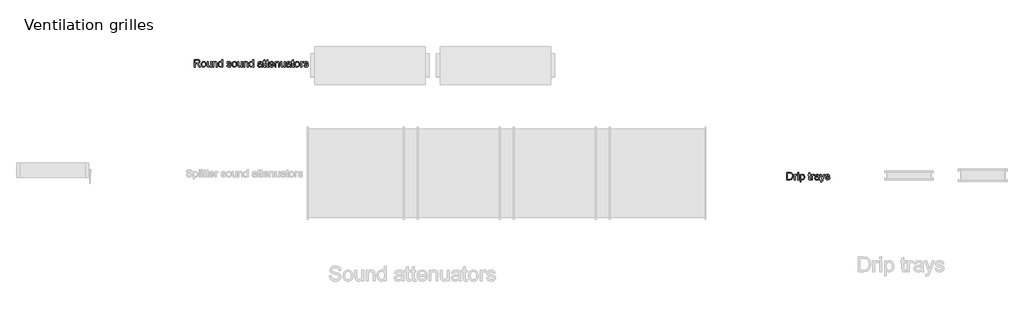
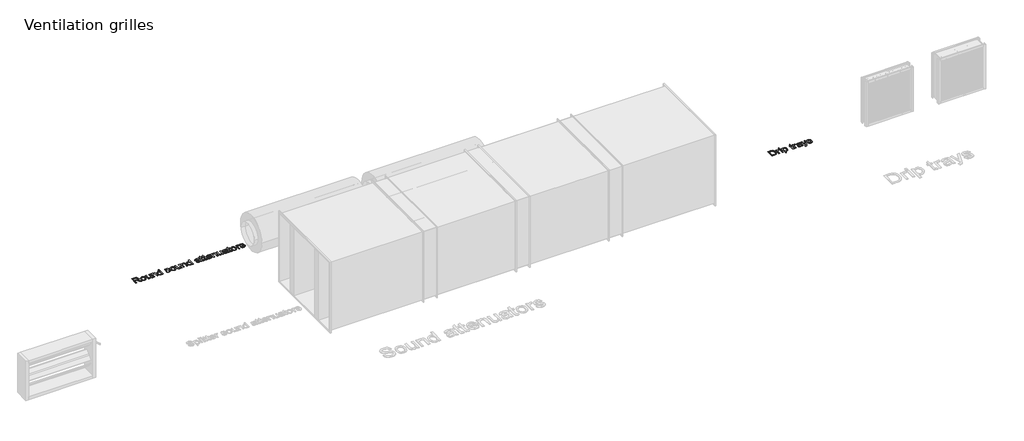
# One storey, part 10 of 10: 2 proxies.
"""IFC4 building model written with IfcOpenShell, lengths in millimetres."""

import ifcopenshell
import ifcopenshell.guid

model = None  # the IFC model being written
_history = None  # IfcOwnerHistory: only IFC2X3 demands one
_inside = {}  # id of a spatial element -> (the spatial element, [elements in it])
_under = {}  # id of a project, library or spatial element -> (it, [spatial elements below it])
_declared = {}  # id of a project -> (the project, [libraries it declares])
_typed = {}  # id of a type object -> (the type object, [elements of that type])
_made_of = {}  # id of a material, layer set ... -> (it, [elements and type objects made of it])


def new_model(schema):
    """Start an empty IFC model of exactly this schema.

    Asked for "IFC4X3", IfcOpenShell would pick the latest addendum, in which some entities
    have other attributes; the version numbers below select the first issue.
    IFC2X3 requires an IfcOwnerHistory on every rooted entity: one is made here for all.
    """
    global model, _history
    if schema == "IFC4X3":
        model = ifcopenshell.file(schema_version=(4, 3, 0, 0))
    else:
        model = ifcopenshell.file(schema=schema)
    _inside.clear()
    _under.clear()
    _declared.clear()
    _typed.clear()
    _made_of.clear()
    _history = None
    if model.schema == "IFC2X3":
        org = make("IfcOrganization", Name="unknown")
        user = make(
            "IfcPersonAndOrganization",
            ThePerson=make("IfcPerson", FamilyName="unknown"),
            TheOrganization=org,
        )
        app = make(
            "IfcApplication",
            ApplicationDeveloper=org,
            Version="unknown",
            ApplicationFullName="unknown",
            ApplicationIdentifier="unknown",
        )
        _history = make(
            "IfcOwnerHistory",
            OwningUser=user,
            OwningApplication=app,
            ChangeAction="ADDED",
            CreationDate=0,
        )
    return model


def make(cls, **values):
    """One entity of the class cls with the attributes given. An attribute that is None is left unset."""
    return model.create_entity(
        cls, **{name: value for name, value in values.items() if value is not None}
    )


def rooted(cls, **values):
    """An entity with a GlobalId (a new one), such as an element, a storey or a relation."""
    return make(cls, GlobalId=ifcopenshell.guid.new(), OwnerHistory=_history, **values)


def si_unit(unit_type, name, prefix=None):
    """IfcSIUnit, for example si_unit("LENGTHUNIT", "METRE", prefix="MILLI")."""
    return make("IfcSIUnit", UnitType=unit_type, Prefix=prefix, Name=name)


def assignment(units):
    """IfcUnitAssignment: the units of a project."""
    return None if units is None else make("IfcUnitAssignment", Units=units)


def point(xyz):
    """IfcCartesianPoint."""
    return None if xyz is None else make("IfcCartesianPoint", Coordinates=xyz)


def direction(xyz):
    """IfcDirection."""
    return None if xyz is None else make("IfcDirection", DirectionRatios=xyz)


def frame(location, z_axis=None, x_axis=None):
    """IfcAxis2Placement3D, a coordinate frame: its origin and axes. An axis left out is left unset."""
    return make(
        "IfcAxis2Placement3D",
        Location=point(location),
        Axis=direction(z_axis),
        RefDirection=direction(x_axis),
    )


def origin():
    """The frame at (0, 0, 0) with its axes left unset."""
    return frame((0.0, 0.0, 0.0))


def origin_with_axes():
    """The frame at (0, 0, 0) with the z axis (0, 0, 1) and the x axis (1, 0, 0) written out."""
    return frame((0.0, 0.0, 0.0), z_axis=(0.0, 0.0, 1.0), x_axis=(1.0, 0.0, 0.0))


def place(relative_to, where):
    """IfcLocalPlacement: puts the frame where relative to a parent placement (None: the world)."""
    return make(
        "IfcLocalPlacement", PlacementRelTo=relative_to, RelativePlacement=where
    )


def context(
    kind, dimensions, precision=None, world=None, true_north=None, identifier=None
):
    """IfcGeometricRepresentationContext, for example the 3D "Model" context."""
    return make(
        "IfcGeometricRepresentationContext",
        ContextIdentifier=identifier,
        ContextType=kind,
        CoordinateSpaceDimension=dimensions,
        Precision=precision,
        WorldCoordinateSystem=world,
        TrueNorth=true_north,
    )


def project(units=None, contexts=None):
    """IfcProject with its units and contexts."""
    return rooted(
        "IfcProject",
        Name="project",
        RepresentationContexts=contexts,
        UnitsInContext=assignment(units),
    )


def spatial(cls, under=None, at=None, **own):
    """A site, building, storey or space (cls), placed at a placement, below another one or the project."""
    s = rooted(cls, ObjectPlacement=at, **own)
    if under is not None:
        _under.setdefault(under.id(), (under, []))[1].append(s)
    return s


def polyline(points):
    """IfcPolyline through the points."""
    return make("IfcPolyline", Points=[point(p) for p in points])


def outline(outer, holes=None, kind="AREA"):
    """IfcArbitraryClosedProfileDef: a profile drawn as a closed curve; with holes, ...WithVoids."""
    if holes is None:
        return make("IfcArbitraryClosedProfileDef", ProfileType=kind, OuterCurve=outer)
    return make(
        "IfcArbitraryProfileDefWithVoids",
        ProfileType=kind,
        OuterCurve=outer,
        InnerCurves=holes,
    )


def extrude(swept, where, along, depth):
    """IfcExtrudedAreaSolid: the profile swept, set in the frame where, extruded along a direction by depth."""
    return make(
        "IfcExtrudedAreaSolid",
        SweptArea=swept,
        Position=where,
        ExtrudedDirection=direction(along),
        Depth=depth,
    )


def shape(context_of_items, identifier, shape_type, items):
    """IfcShapeRepresentation: the items that make up one representation, for example the "Body"."""
    return make(
        "IfcShapeRepresentation",
        ContextOfItems=context_of_items,
        RepresentationIdentifier=identifier,
        RepresentationType=shape_type,
        Items=items,
    )


def made_of(thing, what):
    """Note that an element or type object is made of a material, layer set ...; save() writes the relation."""
    if what is not None:
        _made_of.setdefault(what.id(), (what, []))[1].append(thing)
    return thing


def element(
    cls,
    number,
    at=None,
    inside=None,
    cuts=None,
    type_object=None,
    material=None,
    context=None,
    identifier="Body",
    shape_type=None,
    held_by="IfcProductDefinitionShape",
    body=None,
    shapes=None,
    **own,
):
    """One element of the class cls, such as IfcWall. Its Tag is "e" and its number.

    at: its placement. inside: the storey or other place that contains it. cuts: it is an
    opening in that element (IfcRelVoidsElement). A single representation is given by context,
    identifier, shape_type and body (its items); several are given by shapes. held_by: the class
    of the entity that holds the representations. save() writes the other relations.
    """
    e = rooted(cls, Tag="e%d" % number, ObjectPlacement=at, **own)
    if body is not None:
        shapes = [shape(context, identifier, shape_type, body)]
    if shapes is not None:
        e.Representation = make(held_by, Representations=shapes)
    if inside is not None:
        _inside.setdefault(inside.id(), (inside, []))[1].append(e)
    if cuts is not None:
        rooted(
            "IfcRelVoidsElement", RelatingBuildingElement=cuts, RelatedOpeningElement=e
        )
    if type_object is not None:
        _typed.setdefault(type_object.id(), (type_object, []))[1].append(e)
    return made_of(e, material)


def aggregate(whole, parts):
    """IfcRelAggregates: a whole, such as a stair, and the parts it consists of."""
    return rooted("IfcRelAggregates", RelatingObject=whole, RelatedObjects=parts)


def save(model, path):
    """Write the relations noted so far, then the file.

    IfcRelAggregates (storeys below a building ...), IfcRelContainedInSpatialStructure (elements
    in a storey), IfcRelDefinesByType, IfcRelAssociatesMaterial and IfcRelDeclares: one each for
    every whole, place, type object, material and project.
    """
    for whole, parts in _under.values():
        aggregate(whole, parts)
    for where, things in _inside.values():
        rooted(
            "IfcRelContainedInSpatialStructure",
            RelatedElements=things,
            RelatingStructure=where,
        )
    for kind, things in _typed.values():
        rooted("IfcRelDefinesByType", RelatedObjects=things, RelatingType=kind)
    for what, things in _made_of.values():
        rooted("IfcRelAssociatesMaterial", RelatedObjects=things, RelatingMaterial=what)
    for by, libraries in _declared.values():
        rooted("IfcRelDeclares", RelatingContext=by, RelatedDefinitions=libraries)
    model.write(path)


model = new_model("IFC4")

# Units and contexts
model_context = context("Model", 3, world=origin())
ifc_project = project(units=[si_unit("LENGTHUNIT", "METRE", prefix="MILLI")], contexts=[model_context])

# Site, building, storey
site = spatial("IfcSite", under=ifc_project)
building = spatial("IfcBuilding", under=site)
storey = spatial("IfcBuildingStorey", under=building, Name="Ventilation grilles", Elevation=0.0)

# Proxies
placement = place(None, origin())
element("IfcBuildingElementProxy", 1, Name="100mm", ObjectType="100mm", at=placement, inside=storey, context=model_context, shape_type="SweptSolid", body=[
    extrude(outline(polyline([(17028.791729, -13631.5210593), (17028.791729, -13531.0647491), (17072.0791771, -13531.0647491), (17092.1777968, -13533.7748132), (17103.1652057, -13543.3642705), (17107.2732214, -13558.5577969), (17105.5717671, -13568.4538226), (17100.4674044, -13576.6575911), (17091.8068491, -13582.6724617), (17079.436817, -13586.0017937), (17086.5737278, -13591.3728709), (17096.7517963, -13604.2977916), (17113.5026898, -13631.5210593), (17098.9100373, -13631.5210593), (17085.8379638, -13610.6989384), (17076.3956592, -13596.9156263), (17069.7615206, -13590.4041149), (17063.7895695, -13588.012882), (17056.505506, -13587.5714236), (17041.3487678, -13587.5714236), (17041.3487678, -13631.5210593), (17028.791729, -13631.5210593)]), holes=[polyline([(17041.3487678, -13575.0143848), (17069.4549522, -13575.0143848), (17083.7900873, -13573.2362885), (17091.9325422, -13567.5463803), (17094.7161826, -13559.0237808), (17089.4064191, -13547.9627954), (17072.6187374, -13543.6217879), (17041.3487678, -13543.6217879), (17041.3487678, -13575.0143848)])]), origin_with_axes(), (0.0, 0.0, 1.0), 2.0),
    extrude(outline(polyline([(17124.5391497, -13594.6347579), (17127.2553451, -13576.8476634), (17135.4039312, -13564.345807), (17145.4716352, -13558.2205717), (17157.5259019, -13556.1788267), (17170.7175371, -13558.6650958), (17181.2542906, -13566.1239033), (17188.161275, -13577.9666378), (17190.4636032, -13593.6046883), (17186.3923758, -13615.9473881), (17174.5343128, -13628.590266), (17157.5259019, -13633.0906891), (17144.1748511, -13630.613617), (17133.6503604, -13623.1824007), (17126.8169523, -13611.0913458), (17124.5391497, -13594.6347579)]), holes=[polyline([(17137.0961884, -13594.6102324), (17138.5493223, -13605.9747204), (17142.9087239, -13614.07119), (17149.4692862, -13618.9180353), (17157.5259019, -13620.5336504), (17165.5457294, -13618.9088382), (17172.0940289, -13614.0344018), (17176.4534305, -13605.8306333), (17177.9065644, -13594.217825), (17176.4442335, -13583.1844308), (17172.0572407, -13575.1983258), (17165.4997441, -13570.3514805), (17157.5259019, -13568.7358654), (17149.4692862, -13570.3453492), (17142.9087239, -13575.1738003), (17138.5493223, -13583.2518758), (17137.0961884, -13594.6102324)])]), origin_with_axes(), (0.0, 0.0, 1.0), 2.0),
    extrude(outline(polyline([(17251.6791672, -13631.5210593), (17251.6791672, -13618.8413932), (17241.8444552, -13629.5283651), (17229.0176363, -13633.0906891), (17217.2086242, -13630.5890916), (17209.0661694, -13624.3105722), (17205.3260358, -13615.0644714), (17204.5902718, -13603.3903494), (17204.5902718, -13557.7484565), (17217.1473106, -13557.7484565), (17217.1473106, -13597.479712), (17217.9076, -13610.2820054), (17222.874007, -13617.7990609), (17232.2304724, -13620.5336504), (17242.7151092, -13617.7377472), (17249.6435535, -13610.1225899), (17251.6791672, -13596.1308113), (17251.6791672, -13557.7484565), (17264.236206, -13557.7484565), (17264.236206, -13631.5210593), (17251.6791672, -13631.5210593)])), origin_with_axes(), (0.0, 0.0, 1.0), 2.0),
    extrude(outline(polyline([(17281.5021343, -13631.5210593), (17281.5021343, -13557.7484565), (17294.059173, -13557.7484565), (17294.059173, -13568.0491524), (17303.6608931, -13559.1464081), (17316.7697549, -13556.1788267), (17328.6278178, -13558.5700596), (17336.7212217, -13564.848579), (17340.4858808, -13574.0824171), (17341.1480684, -13586.2225229), (17341.1480684, -13631.5210593), (17328.5910296, -13631.5210593), (17328.5910296, -13587.9147801), (17327.1440271, -13576.8047439), (17322.0304674, -13570.9308947), (17313.409766, -13568.7358654), (17299.7858694, -13573.6654842), (17295.4908471, -13580.8085262), (17294.059173, -13592.378415), (17294.059173, -13631.5210593), (17281.5021343, -13631.5210593)])), origin_with_axes(), (0.0, 0.0, 1.0), 2.0),
    extrude(outline(polyline([(17403.9332623, -13631.5210593), (17403.9332623, -13619.675259), (17395.6252605, -13629.7368316), (17384.1412109, -13633.0906891), (17368.5920653, -13628.2346468), (17357.6046563, -13614.6843266), (17353.7051072, -13594.7083343), (17357.298088, -13574.7200792), (17368.0647677, -13560.9612926), (17384.09216, -13556.1788267), (17395.6681801, -13559.6001292), (17403.9332623, -13568.4906108), (17403.9332623, -13531.0647491), (17416.490301, -13531.0647491), (17416.490301, -13631.5210593), (17403.9332623, -13631.5210593)]), holes=[polyline([(17366.262146, -13594.6592834), (17367.6784916, -13606.01764), (17371.9275287, -13614.0957154), (17378.1018148, -13618.9241666), (17385.2939078, -13620.5336504), (17392.4829352, -13618.997743), (17398.5008715, -13614.390021), (17402.5751646, -13606.6246453), (17403.9332623, -13595.6157765), (17402.5506391, -13583.5799039), (17398.4027696, -13575.235114), (17392.2315491, -13570.3606776), (17384.778873, -13568.7358654), (17377.5132036, -13570.2962982), (17371.5596467, -13574.9775966), (17367.5865211, -13583.0188839), (17366.262146, -13594.6592834)])]), origin_with_axes(), (0.0, 0.0, 1.0), 2.0),
    extrude(outline(polyline([(17469.8577158, -13609.5462414), (17482.4147546, -13607.9766116), (17488.2272901, -13617.2962888), (17501.5446183, -13620.5336504), (17514.3469117, -13617.5660689), (17518.516241, -13610.6008365), (17514.3223863, -13604.9599792), (17501.3974655, -13601.3792611), (17482.488331, -13595.2356318), (17474.2355115, -13588.0619329), (17471.4273456, -13577.9329153), (17473.6836885, -13568.5764499), (17479.8395806, -13561.4272765), (17487.8226199, -13557.7116683), (17498.6260878, -13556.1788267), (17513.9054534, -13558.643636), (17523.617538, -13565.3145629), (17527.9340201, -13576.5840147), (17515.3769813, -13578.1536445), (17510.6558291, -13571.2252003), (17499.6071065, -13568.7358654), (17487.589628, -13571.1148357), (17483.9843844, -13576.6575911), (17485.4804379, -13580.3118855), (17490.1648019, -13583.0832632), (17500.9805326, -13585.7565391), (17519.4114205, -13591.6671765), (17527.9708083, -13598.3626288), (17531.0732798, -13609.2764613), (17527.431248, -13621.2939398), (17516.9220857, -13630.0127431), (17501.37294, -13633.0906891), (17488.711668, -13631.6068984), (17479.4716986, -13627.1555263), (17473.3035438, -13619.7856236), (17469.8577158, -13609.5462414)])), origin_with_axes(), (0.0, 0.0, 1.0), 2.0),
    extrude(outline(polyline([(17542.0606887, -13594.6347579), (17544.7768841, -13576.8476634), (17552.9254703, -13564.345807), (17562.9931742, -13558.2205717), (17575.047441, -13556.1788267), (17588.2390762, -13558.6650958), (17598.7758296, -13566.1239033), (17605.6828141, -13577.9666378), (17607.9851423, -13593.6046883), (17603.9139148, -13615.9473881), (17592.0558519, -13628.590266), (17575.047441, -13633.0906891), (17561.6963902, -13630.613617), (17551.1718995, -13623.1824007), (17544.3384914, -13611.0913458), (17542.0606887, -13594.6347579)]), holes=[polyline([(17554.6177275, -13594.6102324), (17556.0708614, -13605.9747204), (17560.430263, -13614.07119), (17566.9908253, -13618.9180353), (17575.047441, -13620.5336504), (17583.0672684, -13618.9088382), (17589.615568, -13614.0344018), (17593.9749696, -13605.8306333), (17595.4281035, -13594.217825), (17593.9657726, -13583.1844308), (17589.5787798, -13575.1983258), (17583.0212832, -13570.3514805), (17575.047441, -13568.7358654), (17566.9908253, -13570.3453492), (17560.430263, -13575.1738003), (17556.0708614, -13583.2518758), (17554.6177275, -13594.6102324)])]), origin_with_axes(), (0.0, 0.0, 1.0), 2.0),
    extrude(outline(polyline([(17669.2007062, -13631.5210593), (17669.2007062, -13618.8413932), (17659.3659942, -13629.5283651), (17646.5391753, -13633.0906891), (17634.7301633, -13630.5890916), (17626.5877085, -13624.3105722), (17622.8475749, -13615.0644714), (17622.1118109, -13603.3903494), (17622.1118109, -13557.7484565), (17634.6688496, -13557.7484565), (17634.6688496, -13597.479712), (17635.4291391, -13610.2820054), (17640.395546, -13617.7990609), (17649.7520114, -13620.5336504), (17660.2366483, -13617.7377472), (17667.1650925, -13610.1225899), (17669.2007062, -13596.1308113), (17669.2007062, -13557.7484565), (17681.757745, -13557.7484565), (17681.757745, -13631.5210593), (17669.2007062, -13631.5210593)])), origin_with_axes(), (0.0, 0.0, 1.0), 2.0),
    extrude(outline(polyline([(17699.0236733, -13631.5210593), (17699.0236733, -13557.7484565), (17711.5807121, -13557.7484565), (17711.5807121, -13568.0491524), (17721.1824322, -13559.1464081), (17734.2912939, -13556.1788267), (17746.1493569, -13558.5700596), (17754.2427608, -13564.848579), (17758.0074199, -13574.0824171), (17758.6696075, -13586.2225229), (17758.6696075, -13631.5210593), (17746.1125687, -13631.5210593), (17746.1125687, -13587.9147801), (17744.6655662, -13576.8047439), (17739.5520065, -13570.9308947), (17730.931305, -13568.7358654), (17717.3074085, -13573.6654842), (17713.0123862, -13580.8085262), (17711.5807121, -13592.378415), (17711.5807121, -13631.5210593), (17699.0236733, -13631.5210593)])), origin_with_axes(), (0.0, 0.0, 1.0), 2.0),
    extrude(outline(polyline([(17821.4548013, -13631.5210593), (17821.4548013, -13619.675259), (17813.1467996, -13629.7368316), (17801.66275, -13633.0906891), (17786.1136043, -13628.2346468), (17775.1261954, -13614.6843266), (17771.2266462, -13594.7083343), (17774.8196271, -13574.7200792), (17785.5863068, -13560.9612926), (17801.613699, -13556.1788267), (17813.1897192, -13559.6001292), (17821.4548013, -13568.4906108), (17821.4548013, -13531.0647491), (17834.0118401, -13531.0647491), (17834.0118401, -13631.5210593), (17821.4548013, -13631.5210593)]), holes=[polyline([(17783.783685, -13594.6592834), (17785.2000307, -13606.01764), (17789.4490677, -13614.0957154), (17795.6233539, -13618.9241666), (17802.8154469, -13620.5336504), (17810.0044742, -13618.997743), (17816.0224105, -13614.390021), (17820.0967036, -13606.6246453), (17821.4548013, -13595.6157765), (17820.0721782, -13583.5799039), (17815.9243087, -13575.235114), (17809.7530882, -13570.3606776), (17802.3004121, -13568.7358654), (17795.0347427, -13570.2962982), (17789.0811857, -13574.9775966), (17785.1080602, -13583.0188839), (17783.783685, -13594.6592834)])]), origin_with_axes(), (0.0, 0.0, 1.0), 2.0),
    extrude(outline(polyline([(17939.1770398, -13622.1032802), (17927.0001457, -13630.613617), (17913.5479274, -13633.0906891), (17903.0540935, -13631.600767), (17895.3132432, -13627.1310008), (17890.5399743, -13620.343578), (17888.9488847, -13611.9006862), (17891.3523804, -13601.9678723), (17897.667688, -13594.7573852), (17906.4600677, -13590.6371069), (17917.3248493, -13588.748646), (17939.1034634, -13584.4321639), (17939.1770398, -13581.6362607), (17935.718949, -13572.3656345), (17921.8375351, -13568.7358654), (17909.1333435, -13571.1516239), (17903.0755533, -13579.7232744), (17890.5185145, -13578.1536445), (17895.9509053, -13565.8909113), (17906.8892633, -13558.7049497), (17923.4562158, -13556.1788267), (17938.6742677, -13558.4106441), (17947.2704437, -13564.0147132), (17951.1209419, -13572.5373127), (17951.7340785, -13583.5247216), (17951.7340785, -13599.1474437), (17952.3717407, -13620.962846), (17954.8733382, -13631.5210593), (17942.3162995, -13631.5210593), (17939.1770398, -13622.1032802)]), holes=[polyline([(17939.1770398, -13596.9892027), (17918.9190046, -13600.8397009), (17908.1155367, -13602.8753146), (17903.2227061, -13606.1862525), (17901.5059235, -13611.0177694), (17905.2460571, -13617.8113236), (17916.2212033, -13620.5336504), (17928.9253948, -13617.5292807), (17937.1169006, -13610.25748), (17939.1034634, -13600.5453953), (17939.1770398, -13596.9892027)])]), origin_with_axes(), (0.0, 0.0, 1.0), 2.0),
    extrude(outline(polyline([(17995.6837142, -13621.0486851), (17997.2533441, -13631.8889413), (17987.8600905, -13633.0906891), (17977.3386654, -13631.0060245), (17972.0902156, -13625.5368455), (17970.5696367, -13611.2875495), (17970.5696367, -13570.3054953), (17961.1518576, -13570.3054953), (17961.1518576, -13557.7484565), (17970.5696367, -13557.7484565), (17970.5696367, -13539.8203406), (17983.1266755, -13532.4381752), (17983.1266755, -13557.7484565), (17995.6837142, -13557.7484565), (17995.6837142, -13570.3054953), (17983.1266755, -13570.3054953), (17983.1266755, -13610.9196675), (17983.7888631, -13617.3943907), (17985.9348414, -13619.6875218), (17990.2145352, -13620.5336504), (17995.6837142, -13621.0486851)])), origin_with_axes(), (0.0, 0.0, 1.0), 2.0),
    extrude(outline(polyline([(18034.9244604, -13621.0486851), (18036.4940902, -13631.8889413), (18027.1008366, -13633.0906891), (18016.5794116, -13631.0060245), (18011.3309618, -13625.5368455), (18009.8103829, -13611.2875495), (18009.8103829, -13570.3054953), (18000.3926038, -13570.3054953), (18000.3926038, -13557.7484565), (18009.8103829, -13557.7484565), (18009.8103829, -13539.8203406), (18022.3674216, -13532.4381752), (18022.3674216, -13557.7484565), (18034.9244604, -13557.7484565), (18034.9244604, -13570.3054953), (18022.3674216, -13570.3054953), (18022.3674216, -13610.9196675), (18023.0296092, -13617.3943907), (18025.1755875, -13619.6875218), (18029.4552814, -13620.5336504), (18034.9244604, -13621.0486851)])), origin_with_axes(), (0.0, 0.0, 1.0), 2.0),
    extrude(outline(polyline([(18099.1321313, -13609.5462414), (18111.4439154, -13611.1158713), (18107.0078717, -13620.3926289), (18099.9292089, -13627.3272045), (18090.3673427, -13631.649818), (18078.4816886, -13633.0906891), (18063.7480147, -13630.60442), (18052.4111179, -13623.1456125), (18045.1822367, -13611.1986447), (18042.7726096, -13595.2478946), (18045.2067622, -13578.7606498), (18052.5092198, -13566.4304716), (18063.6928324, -13558.7417379), (18077.7704501, -13556.1788267), (18091.4096751, -13558.7356065), (18102.3081792, -13566.4059461), (18109.4542869, -13578.7115989), (18111.8363228, -13595.1743182), (18111.7627464, -13598.5588325), (18055.3296484, -13598.5588325), (18057.5032178, -13607.9582175), (18062.5523982, -13614.8682676), (18069.8395274, -13619.1173047), (18078.7269433, -13620.5336504), (18091.0387274, -13617.9094255), (18099.1321313, -13609.5462414)]), holes=[polyline([(18055.3296484, -13586.0017937), (18099.2792841, -13586.0017937), (18094.2515635, -13574.6219774), (18086.9307118, -13570.2073934), (18077.7213992, -13568.7358654), (18062.2580926, -13573.4324922), (18057.3928532, -13578.923131), (18055.3296484, -13586.0017937)])]), origin_with_axes(), (0.0, 0.0, 1.0), 2.0),
    extrude(outline(polyline([(18124.3933616, -13631.5210593), (18124.3933616, -13557.7484565), (18136.9504004, -13557.7484565), (18136.9504004, -13568.0491524), (18146.5521205, -13559.1464081), (18159.6609822, -13556.1788267), (18171.5190452, -13558.5700596), (18179.6124491, -13564.848579), (18183.3771082, -13574.0824171), (18184.0392958, -13586.2225229), (18184.0392958, -13631.5210593), (18171.482257, -13631.5210593), (18171.482257, -13587.9147801), (18170.0352545, -13576.8047439), (18164.9216948, -13570.9308947), (18156.3009933, -13568.7358654), (18142.6770968, -13573.6654842), (18138.3820745, -13580.8085262), (18136.9504004, -13592.378415), (18136.9504004, -13631.5210593), (18124.3933616, -13631.5210593)])), origin_with_axes(), (0.0, 0.0, 1.0), 2.0),
    extrude(outline(polyline([(18248.3941195, -13631.5210593), (18248.3941195, -13618.8413932), (18238.5594075, -13629.5283651), (18225.7325886, -13633.0906891), (18213.9235765, -13630.5890916), (18205.7811217, -13624.3105722), (18202.0409881, -13615.0644714), (18201.3052241, -13603.3903494), (18201.3052241, -13557.7484565), (18213.8622628, -13557.7484565), (18213.8622628, -13597.479712), (18214.6225523, -13610.2820054), (18219.5889592, -13617.7990609), (18228.9454246, -13620.5336504), (18239.4300615, -13617.7377472), (18246.3585057, -13610.1225899), (18248.3941195, -13596.1308113), (18248.3941195, -13557.7484565), (18260.9511582, -13557.7484565), (18260.9511582, -13631.5210593), (18248.3941195, -13631.5210593)])), origin_with_axes(), (0.0, 0.0, 1.0), 2.0),
    extrude(outline(polyline([(18325.3059819, -13622.1032802), (18313.1290879, -13630.613617), (18299.6768696, -13633.0906891), (18289.1830357, -13631.600767), (18281.4421854, -13627.1310008), (18276.6689165, -13620.343578), (18275.0778268, -13611.9006862), (18277.4813225, -13601.9678723), (18283.7966301, -13594.7573852), (18292.5890098, -13590.6371069), (18303.4537914, -13588.748646), (18325.2324055, -13584.4321639), (18325.3059819, -13581.6362607), (18321.8478912, -13572.3656345), (18307.9664772, -13568.7358654), (18295.2622856, -13571.1516239), (18289.2044955, -13579.7232744), (18276.6474567, -13578.1536445), (18282.0798475, -13565.8909113), (18293.0182055, -13558.7049497), (18309.585158, -13556.1788267), (18324.8032099, -13558.4106441), (18333.3993858, -13564.0147132), (18337.249884, -13572.5373127), (18337.8630207, -13583.5247216), (18337.8630207, -13599.1474437), (18338.5006828, -13620.962846), (18341.0022804, -13631.5210593), (18328.4452416, -13631.5210593), (18325.3059819, -13622.1032802)]), holes=[polyline([(18325.3059819, -13596.9892027), (18305.0479467, -13600.8397009), (18294.2444788, -13602.8753146), (18289.3516483, -13606.1862525), (18287.6348656, -13611.0177694), (18291.3749992, -13617.8113236), (18302.3501454, -13620.5336504), (18315.054337, -13617.5292807), (18323.2458427, -13610.25748), (18325.2324055, -13600.5453953), (18325.3059819, -13596.9892027)])]), origin_with_axes(), (0.0, 0.0, 1.0), 2.0),
    extrude(outline(polyline([(18381.8126564, -13621.0486851), (18383.3822862, -13631.8889413), (18373.9890326, -13633.0906891), (18363.4676075, -13631.0060245), (18358.2191577, -13625.5368455), (18356.6985788, -13611.2875495), (18356.6985788, -13570.3054953), (18347.2807998, -13570.3054953), (18347.2807998, -13557.7484565), (18356.6985788, -13557.7484565), (18356.6985788, -13539.8203406), (18369.2556176, -13532.4381752), (18369.2556176, -13557.7484565), (18381.8126564, -13557.7484565), (18381.8126564, -13570.3054953), (18369.2556176, -13570.3054953), (18369.2556176, -13610.9196675), (18369.9178052, -13617.3943907), (18372.0637835, -13619.6875218), (18376.3434774, -13620.5336504), (18381.8126564, -13621.0486851)])), origin_with_axes(), (0.0, 0.0, 1.0), 2.0),
    extrude(outline(polyline([(18391.2304354, -13594.6347579), (18393.9466308, -13576.8476634), (18402.095217, -13564.345807), (18412.162921, -13558.2205717), (18424.2171877, -13556.1788267), (18437.4088229, -13558.6650958), (18447.9455764, -13566.1239033), (18454.8525608, -13577.9666378), (18457.154889, -13593.6046883), (18453.0836616, -13615.9473881), (18441.2255986, -13628.590266), (18424.2171877, -13633.0906891), (18410.8661369, -13630.613617), (18400.3416462, -13623.1824007), (18393.5082381, -13611.0913458), (18391.2304354, -13594.6347579)]), holes=[polyline([(18403.7874742, -13594.6102324), (18405.2406081, -13605.9747204), (18409.6000097, -13614.07119), (18416.160572, -13618.9180353), (18424.2171877, -13620.5336504), (18432.2370152, -13618.9088382), (18438.7853147, -13614.0344018), (18443.1447163, -13605.8306333), (18444.5978502, -13594.217825), (18443.1355193, -13583.1844308), (18438.7485265, -13575.1983258), (18432.1910299, -13570.3514805), (18424.2171877, -13568.7358654), (18416.160572, -13570.3453492), (18409.6000097, -13575.1738003), (18405.2406081, -13583.2518758), (18403.7874742, -13594.6102324)])]), origin_with_axes(), (0.0, 0.0, 1.0), 2.0),
    extrude(outline(polyline([(18471.2815576, -13631.5210593), (18471.2815576, -13557.7484565), (18482.2689665, -13557.7484565), (18482.2689665, -13568.662289), (18490.0680648, -13558.6068478), (18497.9162141, -13556.1788267), (18510.5223038, -13560.0538503), (18506.328449, -13571.3110394), (18497.4992811, -13568.7358654), (18490.3991586, -13571.2129375), (18485.8742101, -13578.0800681), (18483.8385964, -13592.746297), (18483.8385964, -13631.5210593), (18471.2815576, -13631.5210593)])), origin_with_axes(), (0.0, 0.0, 1.0), 2.0),
    extrude(outline(polyline([(18513.6615634, -13609.5462414), (18526.2186022, -13607.9766116), (18532.0311377, -13617.2962888), (18545.348466, -13620.5336504), (18558.1507594, -13617.5660689), (18562.3200887, -13610.6008365), (18558.1262339, -13604.9599792), (18545.2013132, -13601.3792611), (18526.2921786, -13595.2356318), (18518.0393592, -13588.0619329), (18515.2311933, -13577.9329153), (18517.4875362, -13568.5764499), (18523.6434282, -13561.4272765), (18531.6264675, -13557.7116683), (18542.4299355, -13556.1788267), (18557.709301, -13558.643636), (18567.4213857, -13565.3145629), (18571.7378678, -13576.5840147), (18559.180829, -13578.1536445), (18554.4596767, -13571.2252003), (18543.4109541, -13568.7358654), (18531.3934756, -13571.1148357), (18527.7882321, -13576.6575911), (18529.2842855, -13580.3118855), (18533.9686496, -13583.0832632), (18544.7843802, -13585.7565391), (18563.2152682, -13591.6671765), (18571.7746559, -13598.3626288), (18574.8771274, -13609.2764613), (18571.2350957, -13621.2939398), (18560.7259334, -13630.0127431), (18545.1767877, -13633.0906891), (18532.5155157, -13631.6068984), (18523.2755463, -13627.1555263), (18517.1073915, -13619.7856236), (18513.6615634, -13609.5462414)])), origin_with_axes(), (0.0, 0.0, 1.0), 2.0),
])
element("IfcBuildingElementProxy", 2, Name="100mm", ObjectType="100mm", at=placement, inside=storey, context=model_context, shape_type="SweptSolid", body=[
    extrude(outline(polyline([(25059.9964628, -15161.7938208), (25059.9964628, -15061.3375106), (25094.6509467, -15061.3375106), (25112.5790626, -15062.7845131), (25127.3433933, -15069.9704748), (25139.2382445, -15087.1383012), (25143.1868446, -15111.0261054), (25140.5135688, -15131.2964034), (25133.6464382, -15145.925844), (25124.4739138, -15155.0370548), (25112.468698, -15160.0770381), (25096.3186784, -15161.7938208), (25059.9964628, -15161.7938208)]), holes=[polyline([(25072.5535015, -15149.236782), (25094.773574, -15149.236782), (25110.9358564, -15147.4218975), (25120.2555336, -15142.296075), (25127.8952163, -15129.8248754), (25130.6298058, -15110.8299017), (25129.2901022, -15097.1446915), (25125.2709914, -15087.0401993), (25112.2357061, -15075.9056376), (25094.4302175, -15073.8945494), (25072.5535015, -15073.8945494), (25072.5535015, -15149.236782)])]), origin_with_axes(), (0.0, 0.0, 1.0), 2.0),
    extrude(outline(polyline([(25158.8831431, -15161.7938208), (25158.8831431, -15088.021218), (25169.870552, -15088.021218), (25169.870552, -15098.9350505), (25177.6696503, -15088.8796093), (25185.5177995, -15086.4515882), (25198.1238892, -15090.3266118), (25193.9300345, -15101.5838009), (25185.1008666, -15099.0086269), (25178.0007441, -15101.485699), (25173.4757955, -15108.3528296), (25171.4401818, -15123.0190585), (25171.4401818, -15161.7938208), (25158.8831431, -15161.7938208)])), origin_with_axes(), (0.0, 0.0, 1.0), 2.0),
    extrude(outline(polyline([(25205.9720384, -15161.7938208), (25205.9720384, -15088.021218), (25218.5290772, -15088.021218), (25218.5290772, -15161.7938208), (25205.9720384, -15161.7938208)])), origin_with_axes(), (0.0, 0.0, 1.0), 2.0),
    extrude(outline(polyline([(25205.9720384, -15073.8945494), (25205.9720384, -15061.3375106), (25218.5290772, -15061.3375106), (25218.5290772, -15073.8945494), (25205.9720384, -15073.8945494)])), origin_with_axes(), (0.0, 0.0, 1.0), 2.0),
    extrude(outline(polyline([(25237.3646354, -15190.047158), (25237.3646354, -15088.021218), (25249.9216741, -15088.021218), (25249.9216741, -15100.3330021), (25258.6036892, -15089.9219416), (25270.3268621, -15086.4515882), (25286.2438898, -15091.3076305), (25296.6426875, -15104.9928407), (25300.1498292, -15124.3434337), (25296.1889664, -15144.687308), (25284.6865227, -15158.5441965), (25268.8062832, -15163.3634506), (25257.880188, -15160.1383518), (25249.9216741, -15151.9836342), (25249.9216741, -15190.047158), (25237.3646354, -15190.047158)]), holes=[polyline([(25249.9216741, -15125.4961306), (25251.2797718, -15136.7533196), (25255.3540649, -15144.6259943), (25261.3658699, -15149.2613075), (25268.5365031, -15150.8064118), (25275.8236323, -15149.2061252), (25281.9887214, -15144.4052651), (25286.1917732, -15136.2444162), (25287.5927904, -15124.5641629), (25286.2254957, -15113.3682875), (25282.1236114, -15105.3852482), (25276.1210036, -15100.6027822), (25269.0515379, -15099.0086269), (25261.9544811, -15100.7039498), (25255.7219469, -15105.7899184), (25251.3717423, -15114.1071171), (25249.9216741, -15125.4961306)])]), origin_with_axes(), (0.0, 0.0, 1.0), 2.0),
    extrude(outline(polyline([(25380.2009514, -15151.3214466), (25381.7705812, -15162.1617028), (25372.3773276, -15163.3634506), (25361.8559025, -15161.278786), (25356.6074527, -15155.809607), (25355.0868738, -15141.560311), (25355.0868738, -15100.5782568), (25345.6690947, -15100.5782568), (25345.6690947, -15088.021218), (25355.0868738, -15088.021218), (25355.0868738, -15070.0931021), (25367.6439126, -15062.7109367), (25367.6439126, -15088.021218), (25380.2009514, -15088.021218), (25380.2009514, -15100.5782568), (25367.6439126, -15100.5782568), (25367.6439126, -15141.192429), (25368.3061002, -15147.6671522), (25370.4520785, -15149.9602833), (25374.7317724, -15150.8064118), (25380.2009514, -15151.3214466)])), origin_with_axes(), (0.0, 0.0, 1.0), 2.0),
    extrude(outline(polyline([(25392.7579901, -15161.7938208), (25392.7579901, -15088.021218), (25403.745399, -15088.021218), (25403.745399, -15098.9350505), (25411.5444973, -15088.8796093), (25419.3926466, -15086.4515882), (25431.9987363, -15090.3266118), (25427.8048815, -15101.5838009), (25418.9757136, -15099.0086269), (25411.8755911, -15101.485699), (25407.3506426, -15108.3528296), (25405.3150289, -15123.0190585), (25405.3150289, -15161.7938208), (25392.7579901, -15161.7938208)])), origin_with_axes(), (0.0, 0.0, 1.0), 2.0),
    extrude(outline(polyline([(25486.9357809, -15152.3760417), (25474.7588868, -15160.8863785), (25461.3066686, -15163.3634506), (25450.8128346, -15161.8735285), (25443.0719843, -15157.4037623), (25438.2987154, -15150.6163395), (25436.7076258, -15142.1734477), (25439.1111215, -15132.2406338), (25445.4264291, -15125.0301467), (25454.2188088, -15120.9098684), (25465.0835904, -15119.0214075), (25486.8622045, -15114.7049254), (25486.9357809, -15111.9090222), (25483.4776901, -15102.6383959), (25469.5962762, -15099.0086269), (25456.8920846, -15101.4243854), (25450.8342944, -15109.9960358), (25438.2772557, -15108.426406), (25443.7096465, -15096.1636728), (25454.6480044, -15088.9777112), (25471.214957, -15086.4515882), (25486.4330088, -15088.6834056), (25495.0291848, -15094.2874747), (25498.879683, -15102.8100742), (25499.4928197, -15113.7974831), (25499.4928197, -15129.4202052), (25500.1304818, -15151.2356075), (25502.6320794, -15161.7938208), (25490.0750406, -15161.7938208), (25486.9357809, -15152.3760417)]), holes=[polyline([(25486.9357809, -15127.2619642), (25466.6777457, -15131.1124624), (25455.8742778, -15133.1480761), (25450.9814472, -15136.459014), (25449.2646646, -15141.2905309), (25453.0047982, -15148.0840851), (25463.9799444, -15150.8064118), (25476.684136, -15147.8020422), (25484.8756417, -15140.5302414), (25486.8622045, -15130.8181568), (25486.9357809, -15127.2619642)])]), origin_with_axes(), (0.0, 0.0, 1.0), 2.0),
    extrude(outline(polyline([(25516.758748, -15190.047158), (25515.1891181, -15177.9561031), (25521.5657394, -15179.0597491), (25527.5254277, -15177.6740602), (25531.1797222, -15173.8112993), (25534.6132875, -15164.5651985), (25535.5943061, -15161.5240406), (25508.9105987, -15088.021218), (25522.1543506, -15088.021218), (25536.3055446, -15128.9787468), (25541.2351634, -15145.3617583), (25546.1647821, -15130.8917332), (25560.7083837, -15088.021218), (25573.8540336, -15088.021218), (25548.1758704, -15163.5596543), (25541.5049435, -15179.9426659), (25534.22088, -15188.7963592), (25524.4352189, -15191.6167878), (25516.758748, -15190.047158)])), origin_with_axes(), (0.0, 0.0, 1.0), 2.0),
    extrude(outline(polyline([(25579.5439418, -15139.8190029), (25592.1009806, -15138.2493731), (25597.9135161, -15147.5690503), (25611.2308443, -15150.8064118), (25624.0331378, -15147.8388304), (25628.202467, -15140.873598), (25624.0086123, -15135.2327407), (25611.0836915, -15131.6520226), (25592.174557, -15125.5083933), (25583.9217376, -15118.3346944), (25581.1135717, -15108.2056768), (25583.3699146, -15098.8492114), (25589.5258066, -15091.700038), (25597.5088459, -15087.9844298), (25608.3123138, -15086.4515882), (25623.5916794, -15088.9163975), (25633.303764, -15095.5873244), (25637.6202461, -15106.8567762), (25625.0632073, -15108.426406), (25620.3420551, -15101.4979618), (25609.2933325, -15099.0086269), (25597.275854, -15101.3875972), (25593.6706104, -15106.9303526), (25595.1666639, -15110.584647), (25599.8510279, -15113.3560247), (25610.6667586, -15116.0293006), (25629.0976466, -15121.939938), (25637.6570343, -15128.6353903), (25640.7595058, -15139.5492228), (25637.1174741, -15151.5667013), (25626.6083117, -15160.2855046), (25611.0591661, -15163.3634506), (25598.3978941, -15161.8796599), (25589.1579246, -15157.4282878), (25582.9897698, -15150.0583851), (25579.5439418, -15139.8190029)])), origin_with_axes(), (0.0, 0.0, 1.0), 2.0),
])

save(model, "model.ifc")
